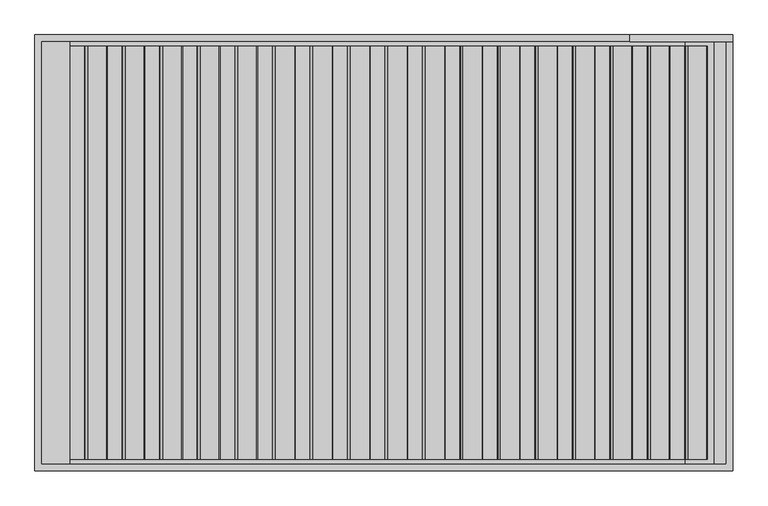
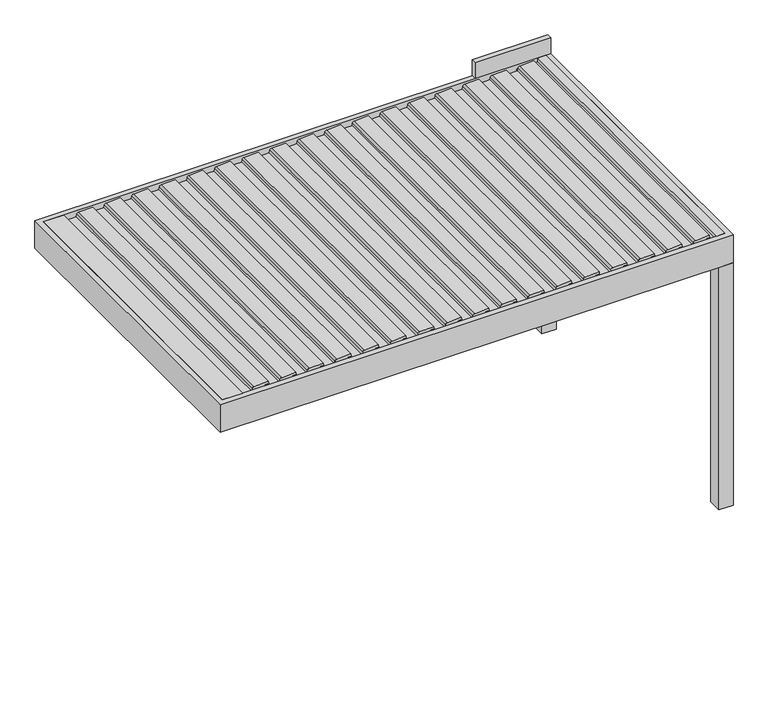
"""IFC4 building model written with IfcOpenShell, lengths in millimetres: proxy geometry, Renson_Algarve_Single : Algarve - Single."""

from ifc_helpers import new_model, si_unit, point, frame, frame_2d, origin, origin_with_axes, place, context, project, spatial, polyline, circle_curve, trimmed, segment, composite_curve, outline, extrude, faceted_brep, source, transform, mapped, element, save


def generic_models_1aad0606(model_context):
    return source(origin(), model_context, "Body", "SolidModel", [
        extrude(outline(composite_curve([segment(polyline([(2188.35, 1609.6114167), (2216.01198, 1612.0315264), (2217.3970364, 1640.8667769), (2236.8911096, 1637.4294458), (2231.6075693, 1527.4323309)]), True, "CONTINUOUS"), segment(trimmed(circle_curve(frame_2d((2216.6248435, 1528.1520029)), 15.0), [point((2231.6075693, 1527.4323309))], [point((2219.2295662, 1513.3798866))], False, "CARTESIAN"), True, "CONTINUOUS"), segment(polyline([(2219.2295662, 1513.3798866), (2200.0, 1509.9891952), (2200.0, 1422.2534192), (2217.0788237, 1419.2419618), (2216.3450182, 1403.9649913), (2188.35, 1401.5157446), (2188.35, 1609.6114167)]), True, "CONTINUOUS")], self_intersect=False)), frame((0.0, -1185.0, 0.0), z_axis=(0.0, 1.0, 0.0), x_axis=(0.0, 0.0, 1.0)), (0.0, 0.0, 1.0), 2370.0),
        extrude(outline(composite_curve([segment(polyline([(2188.35, 1394.600612), (2216.01198, 1397.0207216), (2217.3970364, 1425.8559721), (2236.8911096, 1422.418641), (2231.6075693, 1312.4215261)]), True, "CONTINUOUS"), segment(trimmed(circle_curve(frame_2d((2216.6248435, 1313.1411981)), 15.0), [point((2231.6075693, 1312.4215261))], [point((2219.2295662, 1298.3690818))], False, "CARTESIAN"), True, "CONTINUOUS"), segment(polyline([(2219.2295662, 1298.3690818), (2200.0, 1294.9783904), (2200.0, 1207.2426144), (2217.0788237, 1204.231157), (2216.3450182, 1188.9541865), (2188.35, 1186.5049398), (2188.35, 1394.600612)]), True, "CONTINUOUS")], self_intersect=False)), frame((0.0, -1185.0, 0.0), z_axis=(0.0, 1.0, 0.0), x_axis=(0.0, 0.0, 1.0)), (0.0, 0.0, 1.0), 2370.0),
        extrude(outline(composite_curve([segment(polyline([(2188.35, 1179.5898072), (2216.01198, 1182.0099168), (2217.3970364, 1210.8451673), (2236.8911096, 1207.4078362), (2231.6075693, 1097.4107214)]), True, "CONTINUOUS"), segment(trimmed(circle_curve(frame_2d((2216.6248435, 1098.1303933)), 15.0), [point((2231.6075693, 1097.4107214))], [point((2219.2295662, 1083.358277))], False, "CARTESIAN"), True, "CONTINUOUS"), segment(polyline([(2219.2295662, 1083.358277), (2200.0, 1079.9675857), (2200.0, 992.2318096), (2217.0788237, 989.2203522), (2216.3450182, 973.9433817), (2188.35, 971.494135), (2188.35, 1179.5898072)]), True, "CONTINUOUS")], self_intersect=False)), frame((0.0, -1185.0, 0.0), z_axis=(0.0, 1.0, 0.0), x_axis=(0.0, 0.0, 1.0)), (0.0, 0.0, 1.0), 2370.0),
        extrude(outline(composite_curve([segment(polyline([(2188.35, 964.5790024), (2216.01198, 966.999112), (2217.3970364, 995.8343625), (2236.8911096, 992.3970314), (2231.6075693, 882.3999166)]), True, "CONTINUOUS"), segment(trimmed(circle_curve(frame_2d((2216.6248435, 883.1195885)), 15.0), [point((2231.6075693, 882.3999166))], [point((2219.2295662, 868.3474722))], False, "CARTESIAN"), True, "CONTINUOUS"), segment(polyline([(2219.2295662, 868.3474722), (2200.0, 864.9567809), (2200.0, 777.2210048), (2217.0788237, 774.2095474), (2216.3450182, 758.932577), (2188.35, 756.4833302), (2188.35, 964.5790024)]), True, "CONTINUOUS")], self_intersect=False)), frame((0.0, -1185.0, 0.0), z_axis=(0.0, 1.0, 0.0), x_axis=(0.0, 0.0, 1.0)), (0.0, 0.0, 1.0), 2370.0),
        extrude(outline(composite_curve([segment(polyline([(2188.35, 749.5681976), (2216.01198, 751.9883073), (2217.3970364, 780.8235577), (2236.8911096, 777.3862267), (2231.6075693, 667.3891118)]), True, "CONTINUOUS"), segment(trimmed(circle_curve(frame_2d((2216.6248435, 668.1087837)), 15.0), [point((2231.6075693, 667.3891118))], [point((2219.2295662, 653.3366674))], False, "CARTESIAN"), True, "CONTINUOUS"), segment(polyline([(2219.2295662, 653.3366674), (2200.0, 649.9459761), (2200.0, 562.2102001), (2217.0788237, 559.1987426), (2216.3450182, 543.9217722), (2188.35, 541.4725254), (2188.35, 749.5681976)]), True, "CONTINUOUS")], self_intersect=False)), frame((0.0, -1185.0, 0.0), z_axis=(0.0, 1.0, 0.0), x_axis=(0.0, 0.0, 1.0)), (0.0, 0.0, 1.0), 2370.0),
        extrude(outline(composite_curve([segment(polyline([(2188.35, 534.5573928), (2216.01198, 536.9775025), (2217.3970364, 565.8127529), (2236.8911096, 562.3754219), (2231.6075693, 452.378307)]), True, "CONTINUOUS"), segment(trimmed(circle_curve(frame_2d((2216.6248435, 453.0979789)), 15.0), [point((2231.6075693, 452.378307))], [point((2219.2295662, 438.3258627))], False, "CARTESIAN"), True, "CONTINUOUS"), segment(polyline([(2219.2295662, 438.3258627), (2200.0, 434.9351713), (2200.0, 347.1993953), (2217.0788237, 344.1879379), (2216.3450182, 328.9109674), (2188.35, 326.4617207), (2188.35, 534.5573928)]), True, "CONTINUOUS")], self_intersect=False)), frame((0.0, -1185.0, 0.0), z_axis=(0.0, 1.0, 0.0), x_axis=(0.0, 0.0, 1.0)), (0.0, 0.0, 1.0), 2370.0),
        extrude(outline(composite_curve([segment(polyline([(2188.35, 319.546588), (2216.01198, 321.9666977), (2217.3970364, 350.8019482), (2236.8911096, 347.3646171), (2231.6075693, 237.3675022)]), True, "CONTINUOUS"), segment(trimmed(circle_curve(frame_2d((2216.6248435, 238.0871742)), 15.0), [point((2231.6075693, 237.3675022))], [point((2219.2295662, 223.3150579))], False, "CARTESIAN"), True, "CONTINUOUS"), segment(polyline([(2219.2295662, 223.3150579), (2200.0, 219.9243665), (2200.0, 132.1885905), (2217.0788237, 129.1771331), (2216.3450182, 113.9001626), (2188.35, 111.4509159), (2188.35, 319.546588)]), True, "CONTINUOUS")], self_intersect=False)), frame((0.0, -1185.0, 0.0), z_axis=(0.0, 1.0, 0.0), x_axis=(0.0, 0.0, 1.0)), (0.0, 0.0, 1.0), 2370.0),
        extrude(outline(composite_curve([segment(polyline([(2188.35, 104.5357833), (2216.01198, 106.9558929), (2217.3970364, 135.7911434), (2236.8911096, 132.3538123), (2231.6075693, 22.3566975)]), True, "CONTINUOUS"), segment(trimmed(circle_curve(frame_2d((2216.6248435, 23.0763694)), 15.0), [point((2231.6075693, 22.3566975))], [point((2219.2295662, 8.3042531))], False, "CARTESIAN"), True, "CONTINUOUS"), segment(polyline([(2219.2295662, 8.3042531), (2200.0, 4.9135617), (2200.0, -82.8222143), (2217.0788237, -85.8336717), (2216.3450182, -101.1106422), (2188.35, -103.5598889), (2188.35, 104.5357833)]), True, "CONTINUOUS")], self_intersect=False)), frame((0.0, -1185.0, 0.0), z_axis=(0.0, 1.0, 0.0), x_axis=(0.0, 0.0, 1.0)), (0.0, 0.0, 1.0), 2370.0),
        extrude(outline(composite_curve([segment(polyline([(2188.35, -110.4750215), (2216.01198, -108.0549119), (2217.3970364, -79.2196614), (2236.8911096, -82.6569925), (2231.6075693, -192.6541073)]), True, "CONTINUOUS"), segment(trimmed(circle_curve(frame_2d((2216.6248435, -191.9344354)), 15.0), [point((2231.6075693, -192.6541073))], [point((2219.2295662, -206.7065517))], False, "CARTESIAN"), True, "CONTINUOUS"), segment(polyline([(2219.2295662, -206.7065517), (2200.0, -210.097243), (2200.0, -297.8330191), (2217.0788237, -300.8444765), (2216.3450182, -316.121447), (2188.35, -318.5706937), (2188.35, -110.4750215)]), True, "CONTINUOUS")], self_intersect=False)), frame((0.0, -1185.0, 0.0), z_axis=(0.0, 1.0, 0.0), x_axis=(0.0, 0.0, 1.0)), (0.0, 0.0, 1.0), 2370.0),
        extrude(outline(composite_curve([segment(polyline([(2188.35, -325.4858263), (2216.01198, -323.0657166), (2217.3970364, -294.2304662), (2236.8911096, -297.6677973), (2231.6075693, -407.6649121)]), True, "CONTINUOUS"), segment(trimmed(circle_curve(frame_2d((2216.6248435, -406.9452402)), 15.0), [point((2231.6075693, -407.6649121))], [point((2219.2295662, -421.7173565))], False, "CARTESIAN"), True, "CONTINUOUS"), segment(polyline([(2219.2295662, -421.7173565), (2200.0, -425.1080478), (2200.0, -512.8438238), (2217.0788237, -515.8552813), (2216.3450182, -531.1322517), (2188.35, -533.5814985), (2188.35, -325.4858263)]), True, "CONTINUOUS")], self_intersect=False)), frame((0.0, -1185.0, 0.0), z_axis=(0.0, 1.0, 0.0), x_axis=(0.0, 0.0, 1.0)), (0.0, 0.0, 1.0), 2370.0),
        extrude(outline(composite_curve([segment(polyline([(2188.35, -540.4966311), (2216.01198, -538.0765214), (2217.3970364, -509.241271), (2236.8911096, -512.678602), (2231.6075693, -622.6757169)]), True, "CONTINUOUS"), segment(trimmed(circle_curve(frame_2d((2216.6248435, -621.956045)), 15.0), [point((2231.6075693, -622.6757169))], [point((2219.2295662, -636.7281613))], False, "CARTESIAN"), True, "CONTINUOUS"), segment(polyline([(2219.2295662, -636.7281613), (2200.0, -640.1188526), (2200.0, -727.8546286), (2217.0788237, -730.866086), (2216.3450182, -746.1430565), (2188.35, -748.5923032), (2188.35, -540.4966311)]), True, "CONTINUOUS")], self_intersect=False)), frame((0.0, -1185.0, 0.0), z_axis=(0.0, 1.0, 0.0), x_axis=(0.0, 0.0, 1.0)), (0.0, 0.0, 1.0), 2370.0),
        extrude(outline(composite_curve([segment(polyline([(2188.35, -755.5074359), (2216.01198, -753.0873262), (2217.3970364, -724.2520757), (2236.8911096, -727.6894068), (2231.6075693, -837.6865217)]), True, "CONTINUOUS"), segment(trimmed(circle_curve(frame_2d((2216.6248435, -836.9668497)), 15.0), [point((2231.6075693, -837.6865217))], [point((2219.2295662, -851.738966))], False, "CARTESIAN"), True, "CONTINUOUS"), segment(polyline([(2219.2295662, -851.738966), (2200.0, -855.1296574), (2200.0, -942.8654334), (2217.0788237, -945.8768908), (2216.3450182, -961.1538613), (2188.35, -963.603108), (2188.35, -755.5074359)]), True, "CONTINUOUS")], self_intersect=False)), frame((0.0, -1185.0, 0.0), z_axis=(0.0, 1.0, 0.0), x_axis=(0.0, 0.0, 1.0)), (0.0, 0.0, 1.0), 2370.0),
        extrude(outline(composite_curve([segment(polyline([(2188.35, -970.5182406), (2216.01198, -968.098131), (2217.3970364, -939.2628805), (2236.8911096, -942.7002116), (2231.6075693, -1052.6973265)]), True, "CONTINUOUS"), segment(trimmed(circle_curve(frame_2d((2216.6248435, -1051.9776545)), 15.0), [point((2231.6075693, -1052.6973265))], [point((2219.2295662, -1066.7497708))], False, "CARTESIAN"), True, "CONTINUOUS"), segment(polyline([(2219.2295662, -1066.7497708), (2200.0, -1070.1404622), (2200.0, -1157.8762382), (2217.0788237, -1160.8876956), (2216.3450182, -1176.1646661), (2188.35, -1178.6139128), (2188.35, -970.5182406)]), True, "CONTINUOUS")], self_intersect=False)), frame((0.0, -1185.0, 0.0), z_axis=(0.0, 1.0, 0.0), x_axis=(0.0, 0.0, 1.0)), (0.0, 0.0, 1.0), 2370.0),
        extrude(outline(composite_curve([segment(polyline([(2188.35, -1185.5290454), (2216.01198, -1183.1089358), (2217.3970364, -1154.2736853), (2236.8911096, -1157.7110164), (2231.6075693, -1267.7081312)]), True, "CONTINUOUS"), segment(trimmed(circle_curve(frame_2d((2216.6248435, -1266.9884593)), 15.0), [point((2231.6075693, -1267.7081312))], [point((2219.2295662, -1281.7605756))], False, "CARTESIAN"), True, "CONTINUOUS"), segment(polyline([(2219.2295662, -1281.7605756), (2200.0, -1285.1512669), (2200.0, -1372.887043), (2217.0788237, -1375.8985004), (2216.3450182, -1391.1754709), (2188.35, -1393.6247176), (2188.35, -1185.5290454)]), True, "CONTINUOUS")], self_intersect=False)), frame((0.0, -1185.0, 0.0), z_axis=(0.0, 1.0, 0.0), x_axis=(0.0, 0.0, 1.0)), (0.0, 0.0, 1.0), 2370.0),
        extrude(outline(composite_curve([segment(polyline([(2188.35, -1400.5398502), (2216.01198, -1398.1197405), (2217.3970364, -1369.2844901), (2236.8911096, -1372.7218212), (2231.6075693, -1482.718936)]), True, "CONTINUOUS"), segment(trimmed(circle_curve(frame_2d((2216.6248435, -1481.9992641)), 15.0), [point((2231.6075693, -1482.718936))], [point((2219.2295662, -1496.7713804))], False, "CARTESIAN"), True, "CONTINUOUS"), segment(polyline([(2219.2295662, -1496.7713804), (2200.0, -1500.1620717), (2200.0, -1587.8978478), (2217.0788237, -1590.9093052), (2216.3450182, -1606.1862756), (2188.35, -1608.6355224), (2188.35, -1400.5398502)]), True, "CONTINUOUS")], self_intersect=False)), frame((0.0, -1185.0, 0.0), z_axis=(0.0, 1.0, 0.0), x_axis=(0.0, 0.0, 1.0)), (0.0, 0.0, 1.0), 2370.0),
        extrude(outline(composite_curve([segment(polyline([(2188.35, 1824.6222215), (2216.01198, 1827.0423312), (2217.3970364, 1855.8775816), (2236.8911096, 1852.4402506), (2231.6075693, 1742.4431357)]), True, "CONTINUOUS"), segment(trimmed(circle_curve(frame_2d((2216.6248435, 1743.1628076)), 15.0), [point((2231.6075693, 1742.4431357))], [point((2219.2295662, 1728.3906913))], False, "CARTESIAN"), True, "CONTINUOUS"), segment(polyline([(2219.2295662, 1728.3906913), (2200.0, 1725.0), (2200.0, 1637.264224), (2217.0788237, 1634.2527666), (2216.3450182, 1618.9757961), (2188.35, 1616.5265494), (2188.35, 1824.6222215)]), True, "CONTINUOUS")], self_intersect=False)), frame((0.0, -1185.0, 0.0), z_axis=(0.0, 1.0, 0.0), x_axis=(0.0, 0.0, 1.0)), (0.0, 0.0, 1.0), 2370.0),
        extrude(outline(composite_curve([segment(polyline([(2188.35, -1615.550655), (2216.01198, -1613.1305453), (2217.3970364, -1584.2952949), (2236.8911096, -1587.7326259), (2231.6075693, -1697.7297408)]), True, "CONTINUOUS"), segment(trimmed(circle_curve(frame_2d((2216.6248435, -1697.0100689)), 15.0), [point((2231.6075693, -1697.7297408))], [point((2219.2295662, -1711.7821852))], False, "CARTESIAN"), True, "CONTINUOUS"), segment(polyline([(2219.2295662, -1711.7821852), (2200.0, -1715.1728765), (2200.0, -1802.9086525), (2217.0788237, -1805.9201099), (2216.3450182, -1821.1970804), (2188.35, -1823.6463271), (2188.35, -1615.550655)]), True, "CONTINUOUS")], self_intersect=False)), frame((0.0, -1185.0, 0.0), z_axis=(0.0, 1.0, 0.0), x_axis=(0.0, 0.0, 1.0)), (0.0, 0.0, 1.0), 2370.0),
        extrude(outline(polyline([(2168.0, 1960.0), (2230.0, 1960.0), (2230.0, 1896.0), (2198.0, 1896.0), (2198.0, 1730.0), (2168.0, 1730.0), (2168.0, 1960.0)])), frame((0.0, -1210.0, 0.0), z_axis=(0.0, 1.0, 0.0), x_axis=(0.0, 0.0, 1.0)), (0.0, 0.0, 1.0), 2420.0),
        extrude(outline(polyline([(2230.0, -1800.0), (2230.0, -1960.0), (2186.0, -1960.0), (2186.0, -1827.3193336), (2219.1716603, -1824.4171894), (2220.344502, -1800.0), (2230.0, -1800.0)])), frame((0.0, -1210.0, 0.0), z_axis=(0.0, 1.0, 0.0), x_axis=(0.0, 0.0, 1.0)), (0.0, 0.0, 1.0), 2420.0),
        faceted_brep([(1890.0, 1140.0, 2057.0), (1890.0, 1140.0, 2000.0), (1890.0, -1140.0, 2000.0), (1890.0, -1140.0, 2057.0), (2000.0, 1250.0, 2000.0), (2000.0, 1250.0, 2230.0), (2000.0, -1250.0, 2230.0), (2000.0, -1250.0, 2000.0), (1960.0, 1210.0, 2230.0), (1960.0, 1210.0, 2057.0), (1960.0, -1210.0, 2057.0), (1960.0, -1210.0, 2230.0), (-1890.0, -1140.0, 2000.0), (-1890.0, -1140.0, 2057.0), (-2000.0, -1250.0, 2230.0), (-2000.0, -1250.0, 2000.0), (-1960.0, -1210.0, 2057.0), (-1960.0, -1210.0, 2230.0), (-1890.0, 1140.0, 2000.0), (-1890.0, 1140.0, 2057.0), (-2000.0, 1250.0, 2230.0), (-2000.0, 1250.0, 2000.0), (-1960.0, 1210.0, 2057.0), (-1960.0, 1210.0, 2230.0)], [[[0, 1, 2, 3]], [[4, 5, 6, 7]], [[8, 9, 10, 11]], [[3, 2, 12, 13]], [[7, 6, 14, 15]], [[11, 10, 16, 17]], [[13, 12, 18, 19]], [[15, 14, 20, 21]], [[17, 16, 22, 23]], [[9, 22, 16, 10], [3, 13, 19, 0]], [[19, 18, 1, 0]], [[7, 15, 21, 4], [1, 18, 12, 2]], [[21, 20, 5, 4]], [[5, 20, 14, 6], [11, 17, 23, 8]], [[23, 22, 9, 8]]]),
        extrude(outline(polyline([(2000.0, 1250.0), (2000.0, 1140.0), (1890.0, 1140.0), (1890.0, 1250.0), (2000.0, 1250.0)])), origin_with_axes(), (0.0, 0.0, 1.0), 2000.0),
        extrude(outline(polyline([(2000.0, -1140.0), (2000.0, -1250.0), (1890.0, -1250.0), (1890.0, -1140.0), (2000.0, -1140.0)])), origin_with_axes(), (0.0, 0.0, 1.0), 2000.0),
        extrude(outline(polyline([(2000.0, 1250.0), (2000.0, 1210.0), (1410.0, 1210.0), (1410.0, 1250.0), (2000.0, 1250.0)])), frame((0.0, 0.0, 2230.0), z_axis=(0.0, 0.0, 1.0), x_axis=(1.0, 0.0, 0.0)), (0.0, 0.0, 1.0), 130.0),
    ])


if __name__ == "__main__":
    model = new_model("IFC4")
    model_context = context("Model", 3, world=origin())
    ifc_project = project(units=[si_unit("LENGTHUNIT", "METRE", prefix="MILLI")], contexts=[model_context])
    site = spatial("IfcSite", under=ifc_project)
    building = spatial("IfcBuilding", under=site)
    placement = place(None, origin())
    generic_models_shape = generic_models_1aad0606(model_context)
    element("IfcBuildingElementProxy", 1, Name="Renson_Algarve_Single : Algarve - Single", ObjectType="Renson_Algarve_Single : Algarve - Single", at=placement, inside=building, context=model_context, shape_type="MappedRepresentation", body=[
        mapped(generic_models_shape, transform((0.0, 0.0, 0.0), x_axis=(1.0, 0.0, 0.0), y_axis=(0.0, 1.0, 0.0), z_axis=(0.0, 0.0, 1.0))),
    ])
    save(model, "model.ifc")
